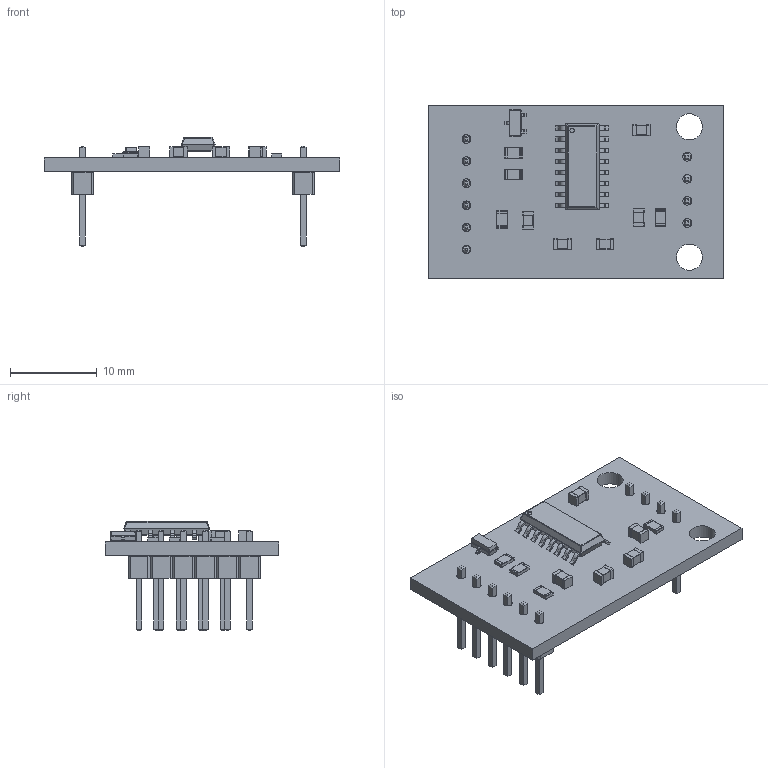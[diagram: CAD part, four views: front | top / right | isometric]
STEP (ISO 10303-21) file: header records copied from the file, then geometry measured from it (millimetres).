
FILE_DESCRIPTION(('KiCad electronic assembly'),'2;1');
FILE_NAME('Breakout_HX711.step','2023-02-26T18:22:17',('Pcbnew'),( 'Kicad'),'Open CASCADE STEP processor 7.6','KiCad to STEP converter' ,'Unknown');
FILE_SCHEMA(('AUTOMOTIVE_DESIGN { 1 0 10303 214 1 1 1 1 }'));
Length unit declared in the file: millimetre
Products named in the file (14): Breakout_HX711 1; R_0805_2012Metric; SOLID; HX711; C_0805_2012Metric; SOT-23; PinHeader_1x04_P2.54mm_Vertical; PinHeader_1x06_P2.54mm_Vertical; Breakout_HX711 PCB
Assembly tree (20 placements, depth 3):
  Breakout_HX711 1
    R_0805_2012Metric  x4
      SOLID
    HX711
      SOLID
    C_0805_2012Metric  x5
      SOLID
    SOT-23
      SOLID
    PinHeader_1x04_P2.54mm_Vertical
      SOLID
    PinHeader_1x06_P2.54mm_Vertical
      SOLID
    Breakout_HX711 PCB
Bounding box: 34 x 20 x 12.54 mm (x, y, z)
Volume: 1285.3 mm3; surface area: 2433 mm2
Topology: 14 solids, 15 shells, 916 faces, 2151 edges, 1303 vertices
Faces by surface type: plane 672, cylinder 202, bspline 27, sphere 15
Full cylindrical faces by diameter (mm): 1 x10, 3 x2
Entity records: 47627 total; most frequent: CARTESIAN_POINT 8506, DIRECTION 6416, LINE 4342, VECTOR 4342, ORIENTED_EDGE 3300, PCURVE 3300, DEFINITIONAL_REPRESENTATION 3300, EDGE_CURVE 1650
